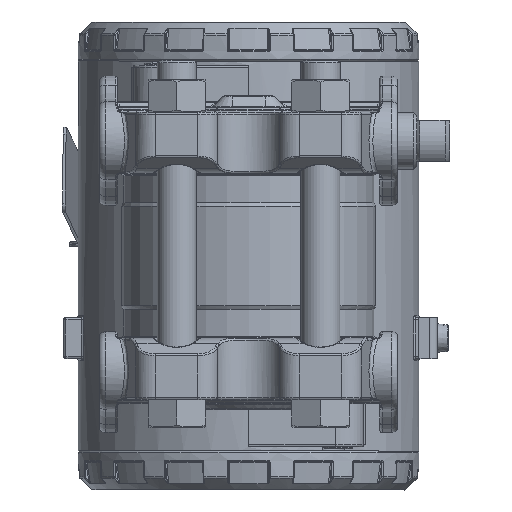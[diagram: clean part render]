
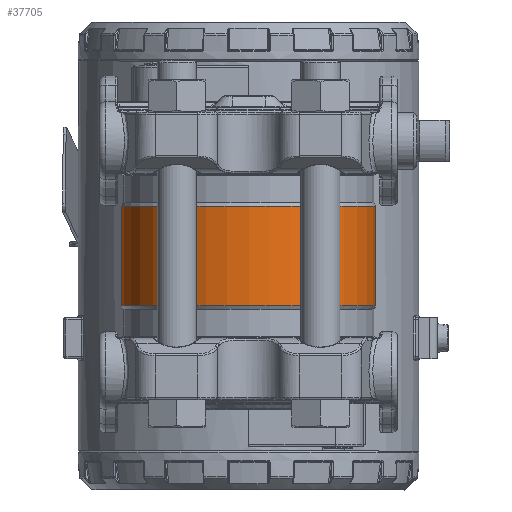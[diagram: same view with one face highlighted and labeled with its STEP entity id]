
A CAD part, left-side view. The second image highlights one B-rep face of the part: STEP entity #37705.
In plain terms, the highlighted cylindrical face has radius 31 mm (diameter 62 mm), a partial arc.
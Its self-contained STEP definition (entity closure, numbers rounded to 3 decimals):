
#2296=B_SPLINE_CURVE_WITH_KNOTS('',3,(#68005,#68006,#68007,#68008,#68009,
#68010),.UNSPECIFIED.,.F.,.F.,(4,1,1,4),(0.383,0.548,
0.913,1.279),.UNSPECIFIED.);
#2298=B_SPLINE_CURVE_WITH_KNOTS('',3,(#68023,#68024,#68025,#68026,#68027,
#68028),.UNSPECIFIED.,.F.,.F.,(4,1,1,4),(0.,0.274,0.548,
0.896),.UNSPECIFIED.);
#2299=B_SPLINE_CURVE_WITH_KNOTS('',3,(#68031,#68032,#68033,#68034,#68035,
#68036),.UNSPECIFIED.,.F.,.F.,(4,1,1,4),(0.383,0.548,
0.913,1.279),.UNSPECIFIED.);
#2300=B_SPLINE_CURVE_WITH_KNOTS('',3,(#68038,#68039,#68040,#68041,#68042,
#68043),.UNSPECIFIED.,.F.,.F.,(4,1,1,4),(0.,0.274,
0.548,0.895),.UNSPECIFIED.);
#3879=CYLINDRICAL_SURFACE('',#41613,31.);
#5109=FACE_OUTER_BOUND('',#7650,.T.);
#7650=EDGE_LOOP('',(#28625,#28626,#28627,#28628,#28629,#28630,#28631,#28632,
#28633,#28634));
#9830=LINE('',#68030,#11183);
#9831=LINE('',#68044,#11184);
#11183=VECTOR('',#48867,10.);
#11184=VECTOR('',#48868,10.);
#13143=CIRCLE('',#41593,31.);
#13146=CIRCLE('',#41596,31.);
#13152=CIRCLE('',#41606,31.);
#13153=CIRCLE('',#41607,31.);
#16262=VERTEX_POINT('',#67872);
#16264=VERTEX_POINT('',#67885);
#16265=VERTEX_POINT('',#67898);
#16277=VERTEX_POINT('',#67941);
#16278=VERTEX_POINT('',#67943);
#16279=VERTEX_POINT('',#67955);
#16281=VERTEX_POINT('',#68004);
#16284=VERTEX_POINT('',#68022);
#16285=VERTEX_POINT('',#68029);
#16286=VERTEX_POINT('',#68037);
#20607=EDGE_CURVE('',#16265,#16264,#13143,.T.);
#20611=EDGE_CURVE('',#16262,#16265,#13146,.T.);
#20623=EDGE_CURVE('',#16278,#16277,#13152,.T.);
#20626=EDGE_CURVE('',#16277,#16279,#13153,.T.);
#20630=EDGE_CURVE('',#16262,#16281,#2296,.T.);
#20634=EDGE_CURVE('',#16284,#16264,#2298,.T.);
#20635=EDGE_CURVE('',#16285,#16284,#9830,.T.);
#20636=EDGE_CURVE('',#16278,#16285,#2299,.T.);
#20637=EDGE_CURVE('',#16286,#16279,#2300,.T.);
#20638=EDGE_CURVE('',#16281,#16286,#9831,.T.);
#28625=ORIENTED_EDGE('',*,*,#20611,.T.);
#28626=ORIENTED_EDGE('',*,*,#20607,.T.);
#28627=ORIENTED_EDGE('',*,*,#20634,.F.);
#28628=ORIENTED_EDGE('',*,*,#20635,.F.);
#28629=ORIENTED_EDGE('',*,*,#20636,.F.);
#28630=ORIENTED_EDGE('',*,*,#20623,.T.);
#28631=ORIENTED_EDGE('',*,*,#20626,.T.);
#28632=ORIENTED_EDGE('',*,*,#20637,.F.);
#28633=ORIENTED_EDGE('',*,*,#20638,.F.);
#28634=ORIENTED_EDGE('',*,*,#20630,.F.);
#37705=ADVANCED_FACE('',(#5109),#3879,.T.);
#41593=AXIS2_PLACEMENT_3D('',#67899,#48821,#48822);
#41596=AXIS2_PLACEMENT_3D('',#67905,#48828,#48829);
#41606=AXIS2_PLACEMENT_3D('',#67944,#48850,#48851);
#41607=AXIS2_PLACEMENT_3D('',#67968,#48852,#48853);
#41613=AXIS2_PLACEMENT_3D('',#68021,#48865,#48866);
#48821=DIRECTION('center_axis',(0.,0.,1.));
#48822=DIRECTION('ref_axis',(-1.,0.,0.));
#48828=DIRECTION('center_axis',(0.,0.,1.));
#48829=DIRECTION('ref_axis',(-1.,0.,0.));
#48850=DIRECTION('center_axis',(0.,0.,-1.));
#48851=DIRECTION('ref_axis',(-1.,0.,0.));
#48852=DIRECTION('center_axis',(0.,0.,-1.));
#48853=DIRECTION('ref_axis',(-1.,0.,0.));
#48865=DIRECTION('center_axis',(0.,0.,1.));
#48866=DIRECTION('ref_axis',(-1.,0.,0.));
#48867=DIRECTION('',(0.,0.,-1.));
#48868=DIRECTION('',(0.,0.,1.));
#67872=CARTESIAN_POINT('',(29.987,7.86,-12.134));
#67885=CARTESIAN_POINT('',(29.987,-7.86,-12.134));
#67898=CARTESIAN_POINT('',(-31.,0.,-12.134));
#67899=CARTESIAN_POINT('Origin',(0.,0.,-12.134));
#67905=CARTESIAN_POINT('Origin',(0.,0.,-12.134));
#67941=CARTESIAN_POINT('',(-31.,0.,12.134));
#67943=CARTESIAN_POINT('',(29.987,-7.86,12.134));
#67944=CARTESIAN_POINT('Origin',(0.,0.,12.134));
#67955=CARTESIAN_POINT('',(29.987,7.86,12.134));
#67968=CARTESIAN_POINT('Origin',(0.,0.,12.134));
#68004=CARTESIAN_POINT('',(28.645,11.853,-5.));
#68005=CARTESIAN_POINT('Ctrl Pts',(29.985,7.857,-12.131));
#68006=CARTESIAN_POINT('Ctrl Pts',(29.871,8.293,-11.889));
#68007=CARTESIAN_POINT('Ctrl Pts',(29.495,9.621,-10.961));
#68008=CARTESIAN_POINT('Ctrl Pts',(28.867,11.328,-8.643));
#68009=CARTESIAN_POINT('Ctrl Pts',(28.645,11.853,-6.218));
#68010=CARTESIAN_POINT('Ctrl Pts',(28.645,11.853,-5.));
#68021=CARTESIAN_POINT('Origin',(0.,0.,0.));
#68022=CARTESIAN_POINT('',(28.645,-11.853,-5.));
#68023=CARTESIAN_POINT('Ctrl Pts',(28.645,-11.853,-5.));
#68024=CARTESIAN_POINT('Ctrl Pts',(28.645,-11.853,-5.913));
#68025=CARTESIAN_POINT('Ctrl Pts',(28.767,-11.563,-7.738));
#68026=CARTESIAN_POINT('Ctrl Pts',(29.282,-10.232,-10.332));
#68027=CARTESIAN_POINT('Ctrl Pts',(29.747,-8.777,-11.623));
#68028=CARTESIAN_POINT('Ctrl Pts',(29.987,-7.86,-12.134));
#68029=CARTESIAN_POINT('',(28.645,-11.853,5.));
#68030=CARTESIAN_POINT('',(28.645,-11.853,0.));
#68031=CARTESIAN_POINT('Ctrl Pts',(29.985,-7.857,12.131));
#68032=CARTESIAN_POINT('Ctrl Pts',(29.871,-8.293,11.889));
#68033=CARTESIAN_POINT('Ctrl Pts',(29.495,-9.621,10.961));
#68034=CARTESIAN_POINT('Ctrl Pts',(28.867,-11.328,8.643));
#68035=CARTESIAN_POINT('Ctrl Pts',(28.645,-11.853,6.218));
#68036=CARTESIAN_POINT('Ctrl Pts',(28.645,-11.853,5.));
#68037=CARTESIAN_POINT('',(28.645,11.853,5.));
#68038=CARTESIAN_POINT('Ctrl Pts',(28.645,11.853,5.));
#68039=CARTESIAN_POINT('Ctrl Pts',(28.645,11.853,5.913));
#68040=CARTESIAN_POINT('Ctrl Pts',(28.767,11.563,7.738));
#68041=CARTESIAN_POINT('Ctrl Pts',(29.282,10.232,10.332));
#68042=CARTESIAN_POINT('Ctrl Pts',(29.747,8.777,11.623));
#68043=CARTESIAN_POINT('Ctrl Pts',(29.987,7.86,12.134));
#68044=CARTESIAN_POINT('',(28.645,11.853,0.));
